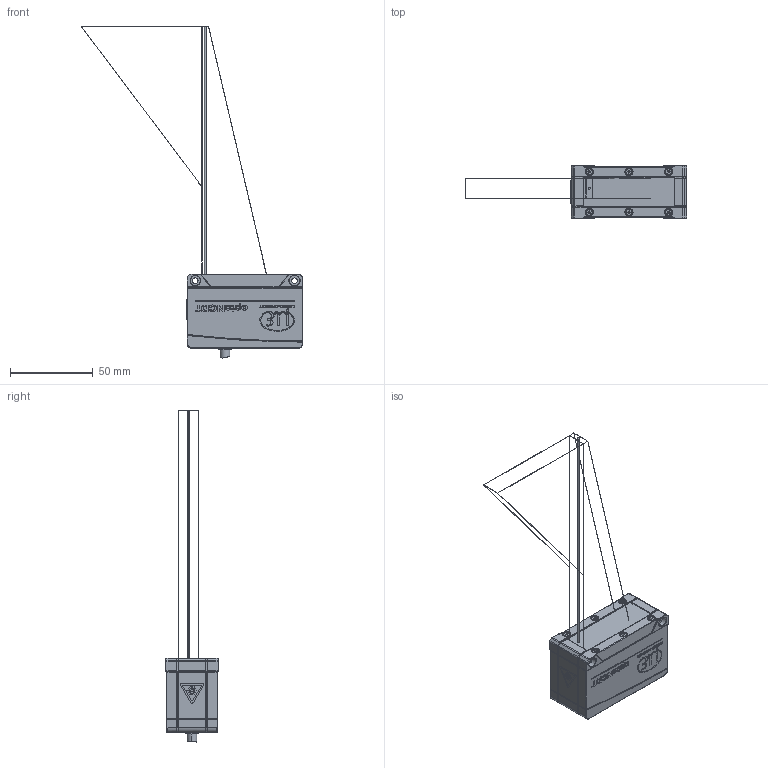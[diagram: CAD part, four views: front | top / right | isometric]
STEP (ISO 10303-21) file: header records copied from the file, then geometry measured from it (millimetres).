
FILE_DESCRIPTION (( 'STEP AP214' ), '1' );
FILE_NAME ('free_space_optoNCDT_1900-100.STEP', '2020-05-06T14:34:09', ( '' ), ( '' ), 'SwSTEP 2.0', 'SolidWorks 2018', '' );
FILE_SCHEMA (( 'AUTOMOTIVE_DESIGN' ));
Length unit declared in the file: millimetre
Products named in the file (2): free_space_optoNCDT_1900-100
Bounding box: 134.2 x 32 x 200.84 mm (x, y, z)
Volume: 95976.6 mm3; surface area: 16362.5 mm2
Topology: 4 solids, 4 shells, 2230 faces, 5826 edges, 3722 vertices
Faces by surface type: plane 964, bspline 813, cylinder 271, torus 87, cone 87, sphere 8
Entity records: 107389 total; most frequent: CARTESIAN_POINT 33911, ORIENTED_EDGE 11596, DIRECTION 7604, EDGE_CURVE 5798, VERTEX_POINT 3722, VECTOR 3306, LINE 3306, EDGE_LOOP 2382
